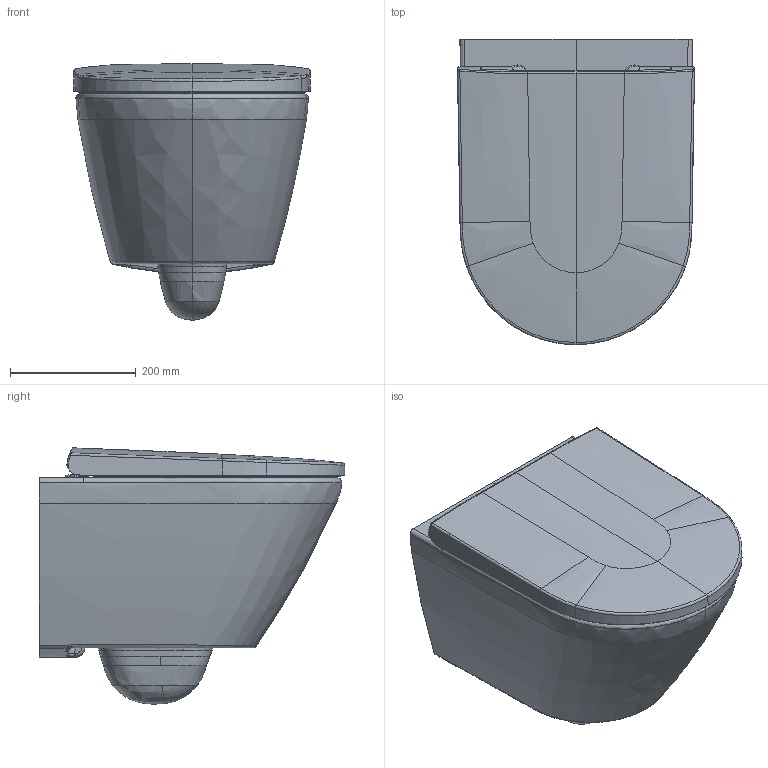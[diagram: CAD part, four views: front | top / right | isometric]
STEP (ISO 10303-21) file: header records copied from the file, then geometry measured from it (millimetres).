
FILE_DESCRIPTION(/* description */ (''),/* implementation_level */ '2;1');
FILE_NAME(/* name */ '258809',/* time_stamp */ '2023-03-02T08:22:27+01:00',/* author */ (''),/* organization */ (''),/* preprocessor_version */ 'ST-DEVELOPER v15',/* originating_system */ '',/* authorisation */ '');
FILE_SCHEMA (('AUTOMOTIVE_DESIGN'));
Length unit declared in the file: millimetre
Products named in the file (1): Document
Bounding box: 376.41 x 485.37 x 407.19 mm (x, y, z)
Volume: 822626.1 mm3; surface area: 1441278.1 mm2
Topology: 5 solids, 7 shells, 1412 faces, 3382 edges, 1920 vertices
Faces by surface type: bspline 1297, plane 115
Entity records: 173760 total; most frequent: CARTESIAN_POINT 152932, ORIENTED_EDGE 6633, EDGE_CURVE 3347, B_SPLINE_CURVE_WITH_KNOTS 3129, VERTEX_POINT 1921, EDGE_LOOP 1419, ADVANCED_FACE 1412, FACE_OUTER_BOUND 1412
